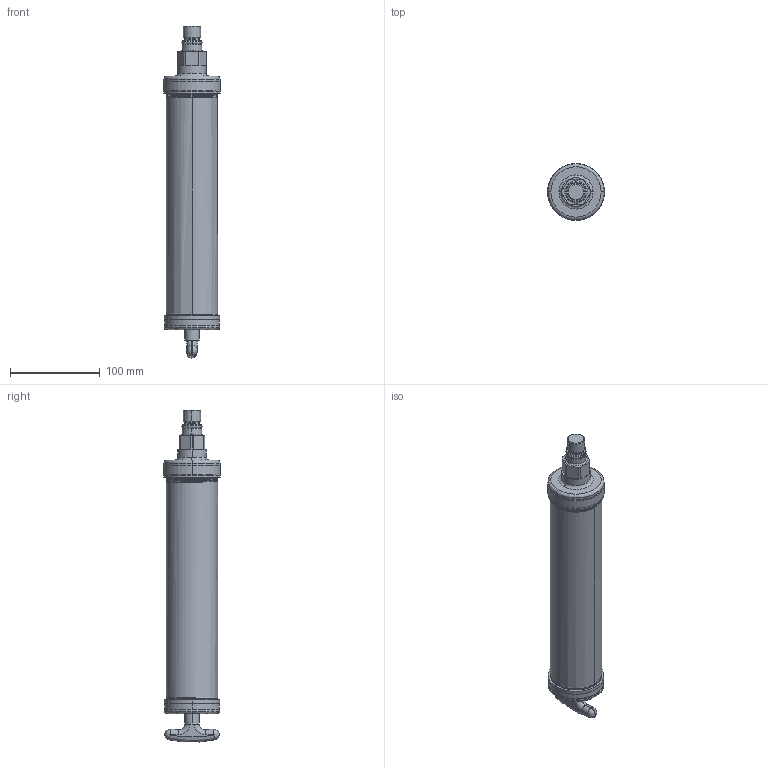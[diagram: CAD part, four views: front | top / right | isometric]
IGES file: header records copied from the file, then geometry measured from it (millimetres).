
Start section:  PTC IGES file: 571162-en-d.igs
Global section: file name: 571162-en-d.igs; native system: Creo Parametric by PTC Inc.; preprocessor: 2021072; author: qufmd1; organization: Unknown; date: 20220621.145433; units: inch
Bounding box: 63.5 x 63.5 x 369.92 mm (x, y, z)
Surface area: 76198.4 mm2 (no closed solid volume)
Topology: 0 solids, 0 shells, 144 faces, 646 edges, 646 vertices
Faces by surface type: revolution 114, bspline 30
